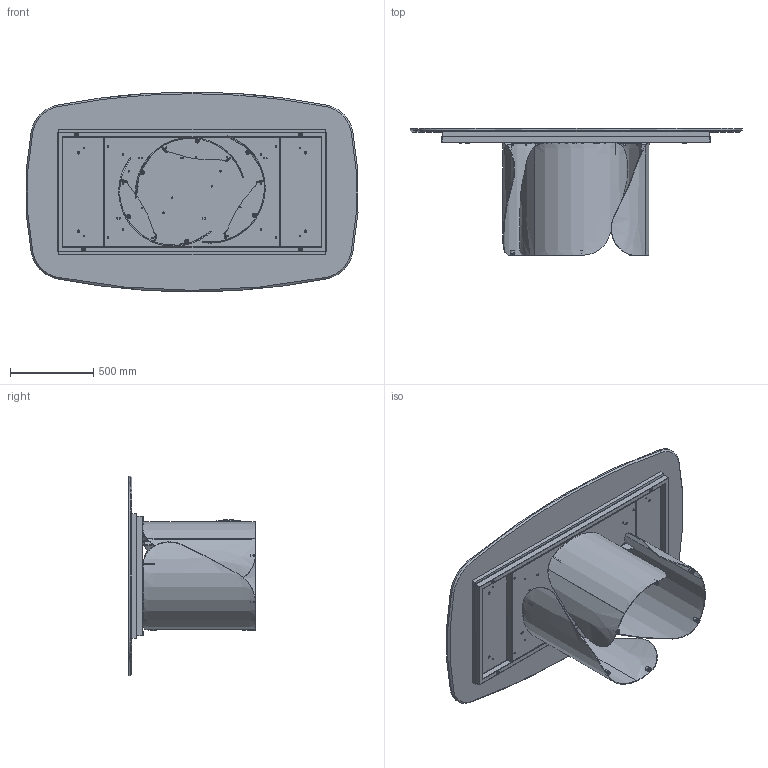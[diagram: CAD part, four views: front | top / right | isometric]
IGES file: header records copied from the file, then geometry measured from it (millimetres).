
Start section: SolidWorks IGES file using analytic representation for surfaces
Global section: file name: Y:\eforma\TECNICO\SOLIDWORKS\E-FORMA\1-TAVOLI\ONDA\02 parts\ON41M.IGS; native system: SolidWorks 2022; preprocessor: SolidWorks 2022; author: eforma.tech; date: 240806.155358; units: millimetre
Bounding box: 1992.14 x 761 x 1200 mm (x, y, z)
Volume: 86328985.9 mm3; surface area: 13265317.9 mm2
Topology: 60 solids, 60 shells, 1759 faces, 4013 edges, 2385 vertices
Faces by surface type: revolution 1075, plane 624, bspline 60
